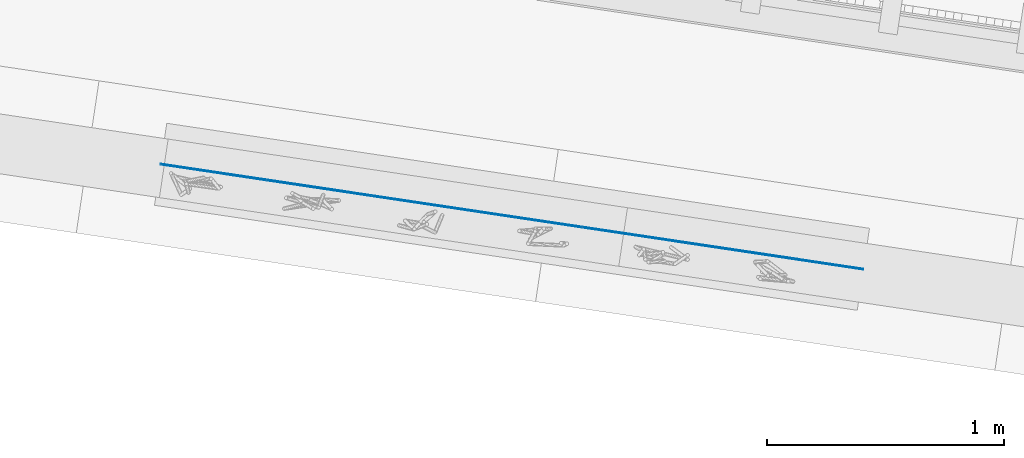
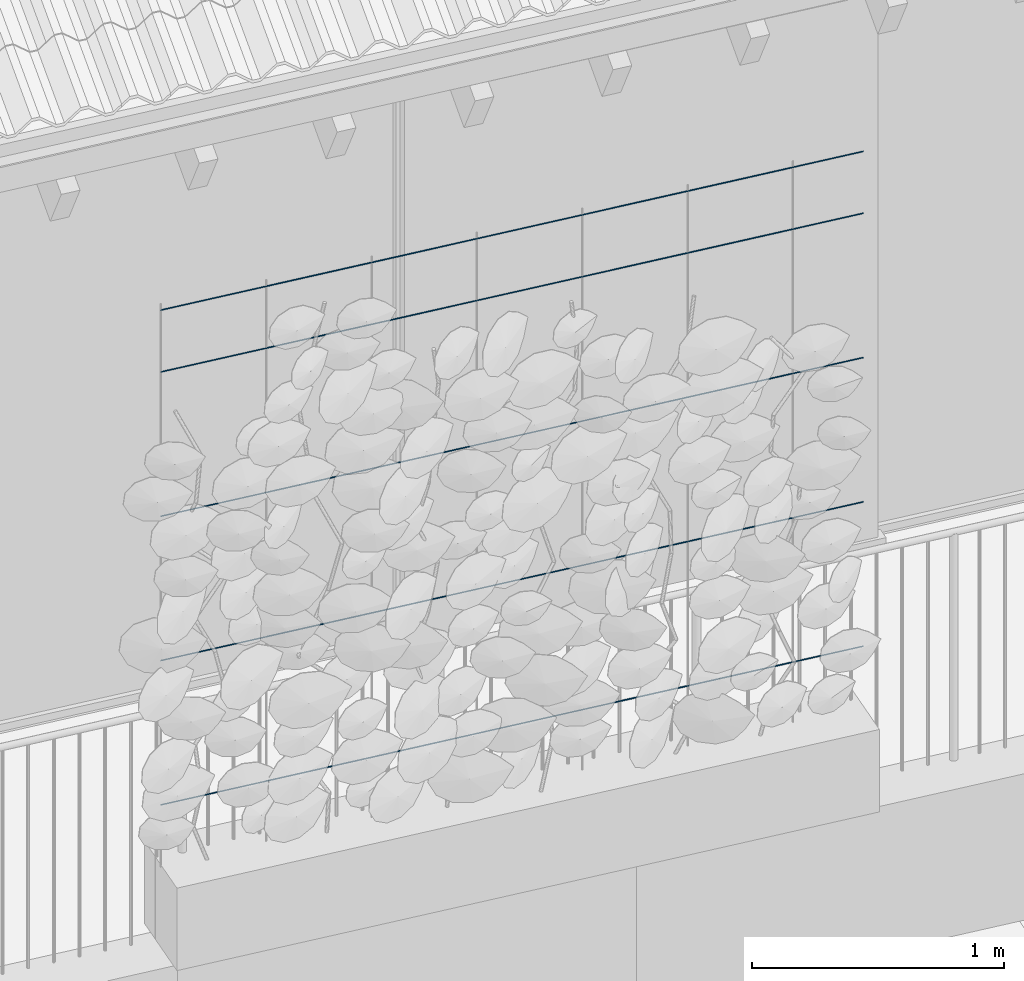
# One storey, part 62 of 128: 5 members, 1 element without a shape of its own.
"""IFC4 building model written with IfcOpenShell, lengths in metres."""

from ifc_helpers import new_model, si_unit, direction, frame, origin_with_axes, place, context, subcontext, project, spatial, circle, extrude, material, material_profile, profile_set, profile_usage, type_object, element, aggregate, save


model = new_model("IFC4")

# Units and contexts
model_context = context("Model", 3, precision=1e-05, world=origin_with_axes(), true_north=direction((0.0, 1.0)))
body_context = subcontext(model_context, "Body", "Model", "MODEL_VIEW")
ifc_project = project(units=[si_unit("VOLUMEUNIT", "CUBIC_METRE"), si_unit("LENGTHUNIT", "METRE"), si_unit("AREAUNIT", "SQUARE_METRE")], contexts=[model_context])

# Site, building, storey
site_placement = place(None, origin_with_axes())
site = spatial("IfcSite", under=ifc_project, at=site_placement, Name="Lares · Rua das Mercês · artigo 4771")
building_placement = place(site_placement, frame((15.0, 9.7, 13.9), z_axis=(0.0, 0.0, 1.0), x_axis=(0.989015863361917, -0.147809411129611, 0.0)))
building = spatial("IfcBuilding", under=site, at=building_placement, Name="Casa Sobreposta")
storey_placement = place(building_placement, origin_with_axes())
storey = spatial("IfcBuildingStorey", under=building, at=storey_placement, Name="00 · Habitação e estacionamento", Elevation=13.9)

# Assembly, members
assembly_placement = place(storey_placement, origin_with_axes())
assembly = element("IfcElementAssembly", 1, at=assembly_placement, inside=storey, Name="Fachada sul e pátio · estrutura e trepadeiras", ObjectType="LIVING_SHADE_TRELLIS", PredefinedType="USERDEFINED")
ifc_material = material(Name="Aço galvanizado / Stahl verzinkt", Category="steel")
ifc_material_profile = material_profile(ifc_material, circle(Radius=0.002))
ifc_profile_set = profile_set([ifc_material_profile], Name="D0.004")
ifc_profile_usage_1 = profile_usage(ifc_profile_set)
member_type = type_object("IfcMemberType", Name="D0.004 / galvanized", PredefinedType="NOTDEFINED", material=ifc_profile_set)
member_1_placement = place(assembly_placement, frame((12.5, -1.61, 0.65), z_axis=(1.0, 0.0, 0.0), x_axis=(0.0, -1.0, 0.0)))
member_1 = element("IfcMember", 2, at=member_1_placement, type_object=member_type, material=ifc_profile_usage_1, Name="Trepadeiras · fio horizontal", context=body_context, shape_type="SweptSolid", body=[
    extrude(circle(Radius=0.002), origin_with_axes(), (0.0, 0.0, 1.0), 3.0),
])
ifc_profile_usage_2 = profile_usage(ifc_profile_set)
member_2_placement = place(assembly_placement, frame((12.5, -1.61, 1.35), z_axis=(1.0, 0.0, 0.0), x_axis=(0.0, -1.0, 0.0)))
member_2 = element("IfcMember", 3, at=member_2_placement, type_object=member_type, material=ifc_profile_usage_2, Name="Trepadeiras · fio horizontal", context=body_context, shape_type="SweptSolid", body=[
    extrude(circle(Radius=0.002), origin_with_axes(), (0.0, 0.0, 1.0), 3.0),
])
ifc_profile_usage_3 = profile_usage(ifc_profile_set)
member_3_placement = place(assembly_placement, frame((12.5, -1.61, 2.05), z_axis=(1.0, 0.0, 0.0), x_axis=(0.0, -1.0, 0.0)))
member_3 = element("IfcMember", 4, at=member_3_placement, type_object=member_type, material=ifc_profile_usage_3, Name="Trepadeiras · fio horizontal", context=body_context, shape_type="SweptSolid", body=[
    extrude(circle(Radius=0.002), origin_with_axes(), (0.0, 0.0, 1.0), 3.0),
])
ifc_profile_usage_4 = profile_usage(ifc_profile_set)
member_4_placement = place(assembly_placement, frame((12.5, -1.61, 2.75), z_axis=(1.0, 0.0, 0.0), x_axis=(0.0, -1.0, 0.0)))
member_4 = element("IfcMember", 5, at=member_4_placement, type_object=member_type, material=ifc_profile_usage_4, Name="Trepadeiras · fio horizontal", context=body_context, shape_type="SweptSolid", body=[
    extrude(circle(Radius=0.002), origin_with_axes(), (0.0, 0.0, 1.0), 3.0),
])
ifc_profile_usage_5 = profile_usage(ifc_profile_set)
member_5_placement = place(assembly_placement, frame((12.5, -1.61, 3.05), z_axis=(1.0, 0.0, 0.0), x_axis=(0.0, -1.0, 0.0)))
member_5 = element("IfcMember", 6, at=member_5_placement, type_object=member_type, material=ifc_profile_usage_5, Name="Trepadeiras · fio horizontal", context=body_context, shape_type="SweptSolid", body=[
    extrude(circle(Radius=0.002), origin_with_axes(), (0.0, 0.0, 1.0), 3.0),
])
aggregate(assembly, [member_1, member_2, member_3, member_4, member_5])

save(model, "model.ifc")
